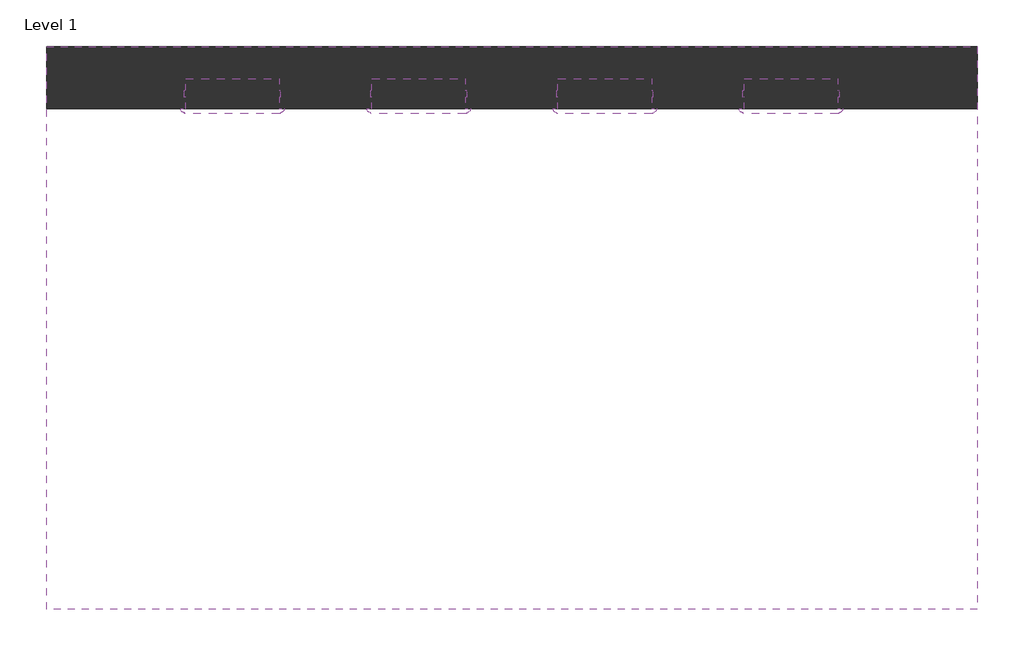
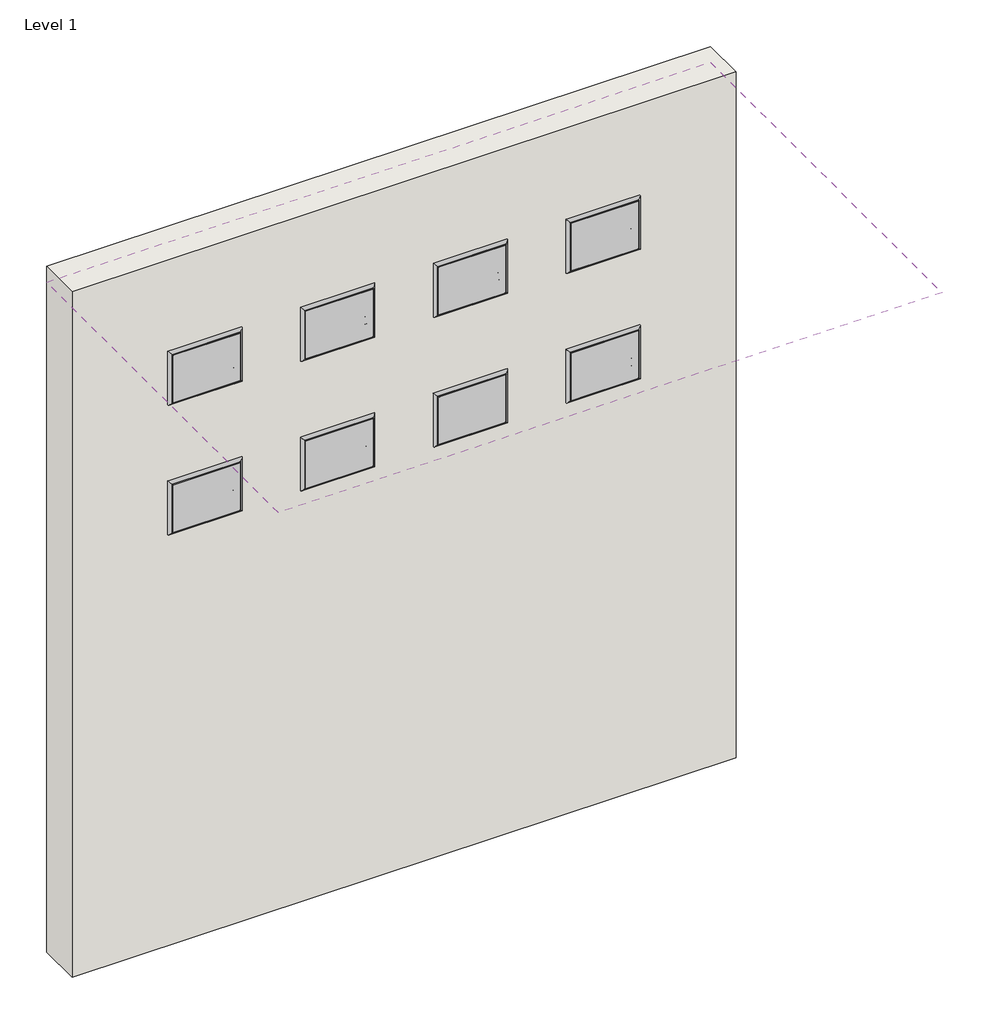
# One storey: 8 proxies, 1 covering, 1 wall.
"""IFC4 building model written with IfcOpenShell, lengths in millimetres."""

from ifc_helpers import new_model, si_unit, frame, origin, place, context, project, spatial, polyline, outline, extrude, faceted_brep, transform, mapped, element, save
from components import communication_devices_045dbd60

model = new_model("IFC4")

# Units and contexts
model_context = context("Model", 3, world=origin())
ifc_project = project(units=[si_unit("LENGTHUNIT", "METRE", prefix="MILLI")], contexts=[model_context])

# Site, building, storey
site = spatial("IfcSite", under=ifc_project)
building = spatial("IfcBuilding", under=site)
storey = spatial("IfcBuildingStorey", under=building, Name="Level 1", Elevation=0.0)

# Proxies
placement = place(None, origin())
communication_devices_shape = communication_devices_045dbd60(model_context)
element("IfcBuildingElementProxy", 1, Name="WU-AB 06-100T-EN54 : WU-AB 06-100T-EN54", ObjectType="WU-AB 06-100T-EN54 : WU-AB 06-100T-EN54", at=placement, inside=storey, context=model_context, shape_type="MappedRepresentation", body=[
    mapped(communication_devices_shape, transform((2289.689197, 1963.1766815, 2066.5658671), x_axis=(1.0, 0.0, 0.0), y_axis=(0.0, 0.0, 1.0), z_axis=(0.0, -1.0, 0.0))),
])
element("IfcBuildingElementProxy", 2, Name="WU-AB 06-100T-EN54 : WU-AB 06-100T-EN54", ObjectType="WU-AB 06-100T-EN54 : WU-AB 06-100T-EN54", at=placement, inside=storey, context=model_context, shape_type="MappedRepresentation", body=[
    mapped(communication_devices_shape, transform((2746.889197, 1963.1766815, 2066.5658671), x_axis=(1.0, 0.0, 0.0), y_axis=(0.0, 0.0, 1.0), z_axis=(0.0, -1.0, 0.0))),
])
element("IfcBuildingElementProxy", 3, Name="WU-AB 06-100T-EN54 : WU-AB 06-100T-EN54", ObjectType="WU-AB 06-100T-EN54 : WU-AB 06-100T-EN54", at=placement, inside=storey, context=model_context, shape_type="MappedRepresentation", body=[
    mapped(communication_devices_shape, transform((3204.089197, 1963.1766815, 2066.5658671), x_axis=(1.0, 0.0, 0.0), y_axis=(0.0, 0.0, 1.0), z_axis=(0.0, -1.0, 0.0))),
])
element("IfcBuildingElementProxy", 4, Name="WU-AB 06-100T-EN54 : WU-AB 06-100T-EN54", ObjectType="WU-AB 06-100T-EN54 : WU-AB 06-100T-EN54", at=placement, inside=storey, context=model_context, shape_type="MappedRepresentation", body=[
    mapped(communication_devices_shape, transform((3661.289197, 1963.1766815, 2066.5658671), x_axis=(1.0, 0.0, 0.0), y_axis=(0.0, 0.0, 1.0), z_axis=(0.0, -1.0, 0.0))),
])
element("IfcBuildingElementProxy", 5, Name="WU-AB 06-100T-EN54 : WU-AB 06-100T-EN54", ObjectType="WU-AB 06-100T-EN54 : WU-AB 06-100T-EN54", at=placement, inside=storey, context=model_context, shape_type="MappedRepresentation", body=[
    mapped(communication_devices_shape, transform((2289.689197, 1963.1766815, 1594.217641), x_axis=(1.0, 0.0, 0.0), y_axis=(0.0, 0.0, 1.0), z_axis=(0.0, -1.0, 0.0))),
])
element("IfcBuildingElementProxy", 6, Name="WU-AB 06-100T-EN54 : WU-AB 06-100T-EN54", ObjectType="WU-AB 06-100T-EN54 : WU-AB 06-100T-EN54", at=placement, inside=storey, context=model_context, shape_type="MappedRepresentation", body=[
    mapped(communication_devices_shape, transform((2746.889197, 1963.1766815, 1594.217641), x_axis=(1.0, 0.0, 0.0), y_axis=(0.0, 0.0, 1.0), z_axis=(0.0, -1.0, 0.0))),
])
element("IfcBuildingElementProxy", 7, Name="WU-AB 06-100T-EN54 : WU-AB 06-100T-EN54", ObjectType="WU-AB 06-100T-EN54 : WU-AB 06-100T-EN54", at=placement, inside=storey, context=model_context, shape_type="MappedRepresentation", body=[
    mapped(communication_devices_shape, transform((3204.089197, 1963.1766815, 1594.217641), x_axis=(1.0, 0.0, 0.0), y_axis=(0.0, 0.0, 1.0), z_axis=(0.0, -1.0, 0.0))),
])
element("IfcBuildingElementProxy", 8, Name="WU-AB 06-100T-EN54 : WU-AB 06-100T-EN54", ObjectType="WU-AB 06-100T-EN54 : WU-AB 06-100T-EN54", at=placement, inside=storey, context=model_context, shape_type="MappedRepresentation", body=[
    mapped(communication_devices_shape, transform((3661.289197, 1963.1766815, 1594.217641), x_axis=(1.0, 0.0, 0.0), y_axis=(0.0, 0.0, 1.0), z_axis=(0.0, -1.0, 0.0))),
])

# Covering
element("IfcCovering", 9, ObjectType="2' x 4' ACT System", at=placement, inside=storey, context=model_context, shape_type="SweptSolid", body=[
    extrude(outline(polyline([(4119.1973575, 2115.5766815), (4119.1973575, 732.2741036), (1833.1973575, 732.2741036), (1833.1973575, 2115.5766815), (4119.1973575, 2115.5766815)])), frame((0.0, 0.0, 2438.4), z_axis=(0.0, 0.0, 1.0), x_axis=(1.0, 0.0, 0.0)), (0.0, 0.0, 1.0), 57.15),
])

# Wall
element("IfcWall", 10, ObjectType="Exterior - 6\" Generic", at=placement, inside=storey, context=model_context, shape_type="Brep", body=[
    faceted_brep([(1833.1973575, 1963.1766815, 0.0), (4119.1973575, 1963.1766815, 0.0), (4119.1973575, 1963.1766815, 2495.55), (1833.1973575, 1963.1766815, 2495.55), (2168.6879567, 1963.1766815, 2157.8196009), (2410.6936954, 1963.1766815, 2157.8196009), (2410.6936954, 1963.1766815, 1975.3121333), (2168.6879567, 1963.1766815, 1975.3121333), (2625.8879567, 1963.1766815, 2157.8196009), (2867.8936954, 1963.1766815, 2157.8196009), (2867.8936954, 1963.1766815, 1975.3121333), (2625.8879567, 1963.1766815, 1975.3121333), (3083.0879567, 1963.1766815, 2157.8196009), (3325.0936954, 1963.1766815, 2157.8196009), (3325.0936954, 1963.1766815, 1975.3121333), (3083.0879567, 1963.1766815, 1975.3121333), (3540.2879567, 1963.1766815, 2157.8196009), (3782.2936954, 1963.1766815, 2157.8196009), (3782.2936954, 1963.1766815, 1975.3121333), (3540.2879567, 1963.1766815, 1975.3121333), (3540.2879567, 1963.1766815, 1685.4713748), (3782.2936954, 1963.1766815, 1685.4713748), (3782.2936954, 1963.1766815, 1502.9639072), (3540.2879567, 1963.1766815, 1502.9639072), (3083.0879567, 1963.1766815, 1685.4713748), (3325.0936954, 1963.1766815, 1685.4713748), (3325.0936954, 1963.1766815, 1502.9639072), (3083.0879567, 1963.1766815, 1502.9639072), (2625.8879567, 1963.1766815, 1685.4713748), (2867.8936954, 1963.1766815, 1685.4713748), (2867.8936954, 1963.1766815, 1502.9639072), (2625.8879567, 1963.1766815, 1502.9639072), (2168.6879567, 1963.1766815, 1685.4713748), (2410.6936954, 1963.1766815, 1685.4713748), (2410.6936954, 1963.1766815, 1502.9639072), (2168.6879567, 1963.1766815, 1502.9639072), (4119.1973575, 2115.5766815, 0.0), (1833.1973575, 2115.5766815, 0.0), (1833.1973575, 2115.5766815, 2495.55), (4119.1973575, 2115.5766815, 2495.55), (2410.6936954, 2043.1766815, 2157.8196009), (2168.6879567, 2043.1766815, 2157.8196009), (2168.6879567, 2043.1766815, 1975.3121333), (2410.6936954, 2043.1766815, 1975.3121333), (2867.8936954, 2043.1766815, 2157.8196009), (2625.8879567, 2043.1766815, 2157.8196009), (2625.8879567, 2043.1766815, 1975.3121333), (2867.8936954, 2043.1766815, 1975.3121333), (3325.0936954, 2043.1766815, 2157.8196009), (3083.0879567, 2043.1766815, 2157.8196009), (3083.0879567, 2043.1766815, 1975.3121333), (3325.0936954, 2043.1766815, 1975.3121333), (3782.2936954, 2043.1766815, 2157.8196009), (3540.2879567, 2043.1766815, 2157.8196009), (3540.2879567, 2043.1766815, 1975.3121333), (3782.2936954, 2043.1766815, 1975.3121333), (3782.2936954, 2043.1766815, 1685.4713748), (3540.2879567, 2043.1766815, 1685.4713748), (3540.2879567, 2043.1766815, 1502.9639072), (3782.2936954, 2043.1766815, 1502.9639072), (3325.0936954, 2043.1766815, 1685.4713748), (3083.0879567, 2043.1766815, 1685.4713748), (3083.0879567, 2043.1766815, 1502.9639072), (3325.0936954, 2043.1766815, 1502.9639072), (2867.8936954, 2043.1766815, 1685.4713748), (2625.8879567, 2043.1766815, 1685.4713748), (2625.8879567, 2043.1766815, 1502.9639072), (2867.8936954, 2043.1766815, 1502.9639072), (2410.6936954, 2043.1766815, 1685.4713748), (2168.6879567, 2043.1766815, 1685.4713748), (2168.6879567, 2043.1766815, 1502.9639072), (2410.6936954, 2043.1766815, 1502.9639072)], [[[0, 1, 2, 3], [4, 5, 6, 7], [8, 9, 10, 11], [12, 13, 14, 15], [16, 17, 18, 19], [20, 21, 22, 23], [24, 25, 26, 27], [28, 29, 30, 31], [32, 33, 34, 35]], [[36, 37, 38, 39]], [[1, 0, 37, 36]], [[2, 1, 36, 39]], [[3, 2, 39, 38]], [[0, 3, 38, 37]], [[40, 41, 42, 43]], [[41, 40, 5, 4]], [[42, 41, 4, 7]], [[43, 42, 7, 6]], [[40, 43, 6, 5]], [[44, 45, 46, 47]], [[45, 44, 9, 8]], [[46, 45, 8, 11]], [[47, 46, 11, 10]], [[44, 47, 10, 9]], [[48, 49, 50, 51]], [[49, 48, 13, 12]], [[50, 49, 12, 15]], [[51, 50, 15, 14]], [[48, 51, 14, 13]], [[52, 53, 54, 55]], [[53, 52, 17, 16]], [[54, 53, 16, 19]], [[55, 54, 19, 18]], [[52, 55, 18, 17]], [[56, 57, 58, 59]], [[57, 56, 21, 20]], [[58, 57, 20, 23]], [[59, 58, 23, 22]], [[56, 59, 22, 21]], [[60, 61, 62, 63]], [[61, 60, 25, 24]], [[62, 61, 24, 27]], [[63, 62, 27, 26]], [[60, 63, 26, 25]], [[64, 65, 66, 67]], [[65, 64, 29, 28]], [[66, 65, 28, 31]], [[67, 66, 31, 30]], [[64, 67, 30, 29]], [[68, 69, 70, 71]], [[69, 68, 33, 32]], [[70, 69, 32, 35]], [[71, 70, 35, 34]], [[68, 71, 34, 33]]]),
])

save(model, "model.ifc")
